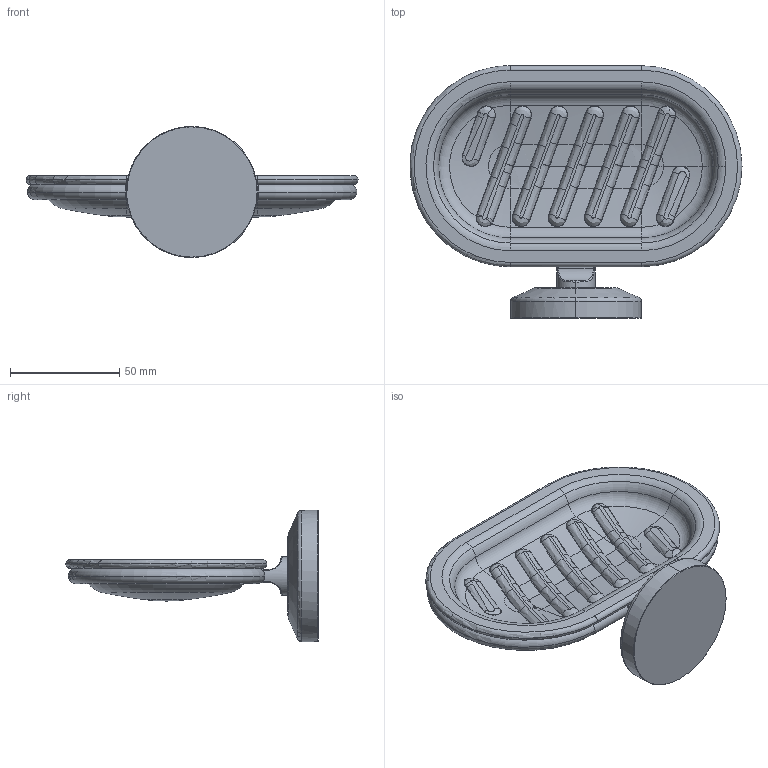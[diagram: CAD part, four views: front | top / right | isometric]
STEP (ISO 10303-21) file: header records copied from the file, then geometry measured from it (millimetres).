
FILE_DESCRIPTION(('THIS FILE CONTAINS SOME STEP INSTANCES'),'1');
FILE_NAME('sta_010.stp','2015-11-30T 8:11:13',('UNDEFINED'),('UNDEFINED'),'T-FLEX CAD STEP converter','T-FLEX CAD','');
FILE_SCHEMA(('CONFIG_CONTROL_DESIGN'));
Length unit declared in the file: metre
Products named in the file (2): 3D 鐨飹懤艜_10; 3D 鐨飹懤艜_6
Bounding box: 151.92 x 115.5 x 60 mm (x, y, z)
Volume: 122165.6 mm3; surface area: 45601.5 mm2
Topology: 2 solids, 2 shells, 318 faces, 754 edges, 436 vertices
Faces by surface type: bspline 206, cylinder 49, torus 44, plane 13, cone 6
Entity records: 29613 total; most frequent: CARTESIAN_POINT 24135, ORIENTED_EDGE 1496, EDGE_CURVE 748, DIRECTION 576, B_SPLINE_CURVE_WITH_KNOTS 464, VERTEX_POINT 436, EDGE_LOOP 322, ADVANCED_FACE 318
